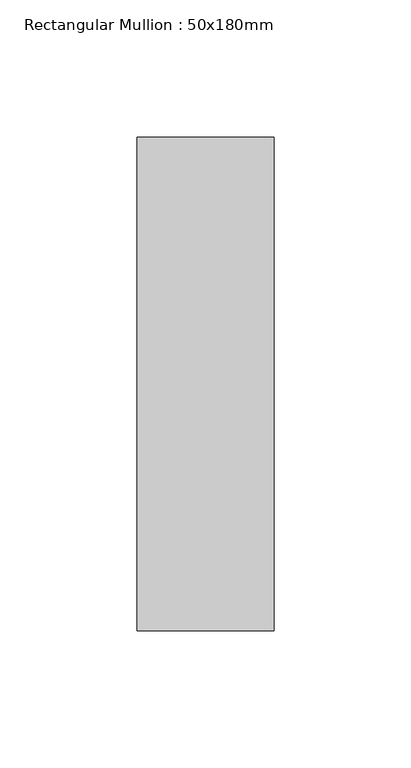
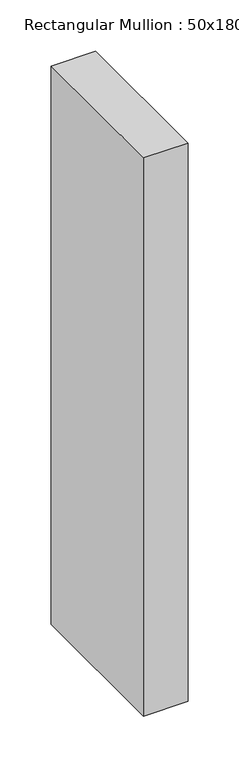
"""IFC4 building model written with IfcOpenShell, lengths in millimetres: member geometry, Rectangular Mullion : 50x180mm."""

from ifc_helpers import new_model, si_unit, frame, origin, place, context, project, spatial, polyline, outline, extrude, source, transform, mapped, element, save


def rectangular_mullion_50x180mm_827d9562(model_context):
    return source(origin(), model_context, "Body", "SweptSolid", [
        extrude(outline(polyline([(25.0, 90.0), (25.0, -90.0), (-25.0, -90.0), (-25.0, 90.0), (25.0, 90.0)])), frame((0.0, 0.0, -665.0), z_axis=(0.0, 0.0, 1.0), x_axis=(1.0, 0.0, 0.0)), (0.0, 0.0, 1.0), 665.0),
    ])


if __name__ == "__main__":
    model = new_model("IFC4")
    model_context = context("Model", 3, world=origin())
    ifc_project = project(units=[si_unit("LENGTHUNIT", "METRE", prefix="MILLI")], contexts=[model_context])
    site = spatial("IfcSite", under=ifc_project)
    building = spatial("IfcBuilding", under=site)
    placement = place(None, origin())
    rectangular_mullion_50x180mm_shape = rectangular_mullion_50x180mm_827d9562(model_context)
    element("IfcMember", 1, ObjectType="Rectangular Mullion : 50x180mm", at=placement, inside=building, context=model_context, shape_type="MappedRepresentation", body=[
        mapped(rectangular_mullion_50x180mm_shape, transform((0.0, 0.0, 0.0), x_axis=(1.0, 0.0, 0.0), y_axis=(0.0, 1.0, 0.0), z_axis=(0.0, 0.0, 1.0))),
    ])
    save(model, "model.ifc")
